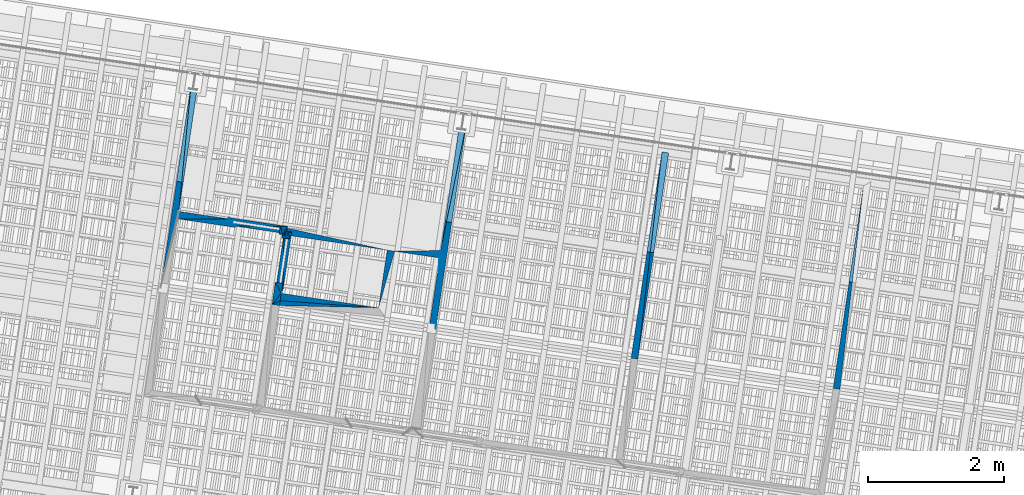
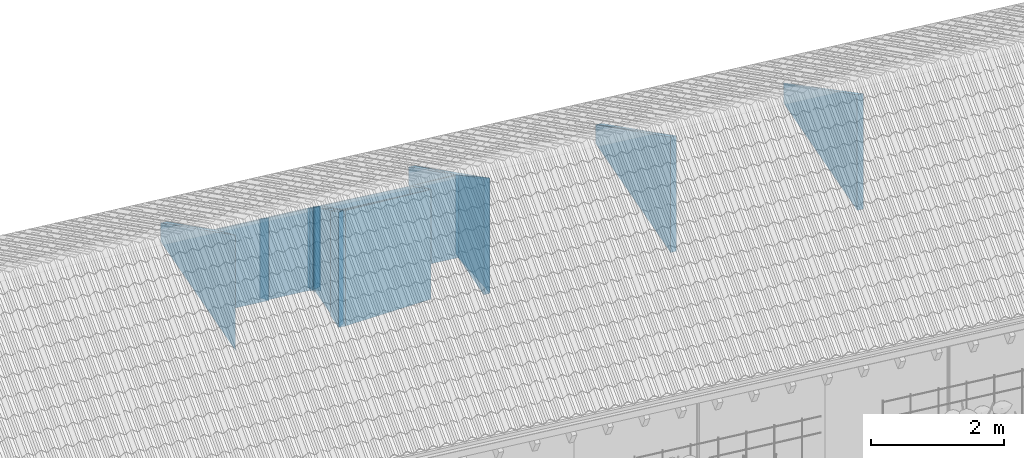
# One storey, part 122 of 128: 32 walls.
"""IFC4 building model written with IfcOpenShell, lengths in metres."""

from ifc_helpers import new_model, si_unit, direction, frame, origin_with_axes, place, context, subcontext, project, spatial, polygons, material, element, save


model = new_model("IFC4")

# Units and contexts
model_context = context("Model", 3, precision=1e-05, world=origin_with_axes(), true_north=direction((0.0, 1.0)))
body_context = subcontext(model_context, "Body", "Model", "MODEL_VIEW")
ifc_project = project(units=[si_unit("VOLUMEUNIT", "CUBIC_METRE"), si_unit("LENGTHUNIT", "METRE"), si_unit("AREAUNIT", "SQUARE_METRE")], contexts=[model_context])

# Site, building, storey
site_placement = place(None, origin_with_axes())
site = spatial("IfcSite", under=ifc_project, at=site_placement, Name="Lares · Rua das Mercês · artigo 4771")
building_placement = place(site_placement, frame((15.0, 9.7, 13.9), z_axis=(0.0, 0.0, 1.0), x_axis=(0.989015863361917, -0.147809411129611, 0.0)))
building = spatial("IfcBuilding", under=site, at=building_placement, Name="Casa Sobreposta")
storey_placement = place(building_placement, origin_with_axes())
storey = spatial("IfcBuildingStorey", under=building, at=storey_placement, Name="00 · Habitação e estacionamento", Elevation=13.9)

# Walls
ifc_material = material(Name="OSB", Category="wood")
wall_1_placement = place(storey_placement, origin_with_axes())
element("IfcWall", 1, at=wall_1_placement, inside=storey, material=ifc_material, Name="Divisória · prolongamento até ao forro", context=body_context, shape_type="Tessellation", body=[
    polygons([(7.96000000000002, 6.27299999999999, 3.05), (7.96000000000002, 3.2, 3.05), (8.05999999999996, 4.35299999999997, 3.05), (7.96000000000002, 6.27299999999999, 3.39332348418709), (7.96000000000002, 3.2, 5.1675208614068), (8.05999999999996, 4.35299999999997, 4.50183600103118)], [[[3, 2, 1]], [[4, 5, 6]], [[1, 2, 5, 4]], [[2, 3, 6, 5]], [[3, 1, 4, 6]]]),
])
wall_2_placement = place(storey_placement, origin_with_axes())
element("IfcWall", 2, at=wall_2_placement, inside=storey, material=ifc_material, Name="Divisória · prolongamento até ao forro", context=body_context, shape_type="Tessellation", body=[
    polygons([(7.96000000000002, 6.27299999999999, 3.05), (8.05999999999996, 4.35299999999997, 3.05), (8.05999999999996, 6.27299999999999, 3.05), (7.96000000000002, 6.27299999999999, 3.39332348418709), (8.05999999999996, 4.35299999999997, 4.50183600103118), (8.05999999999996, 6.27299999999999, 3.39332348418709)], [[[3, 2, 1]], [[4, 5, 6]], [[1, 2, 5, 4]], [[2, 3, 6, 5]], [[3, 1, 4, 6]]]),
])
wall_3_placement = place(storey_placement, origin_with_axes())
element("IfcWall", 3, at=wall_3_placement, inside=storey, material=ifc_material, Name="Divisória · prolongamento até ao forro", context=body_context, shape_type="Tessellation", body=[
    polygons([(9.74955631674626, 4.29756574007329, 3.05), (9.67461809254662, 4.29755537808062, 3.05), (9.63956117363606, 4.26243297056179, 3.05), (9.74955631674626, 4.29756574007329, 4.53384098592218), (9.67461809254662, 4.29755537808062, 4.53384696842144), (9.63956117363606, 4.26243297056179, 4.55412489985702)], [[[3, 2, 1]], [[4, 5, 6]], [[1, 2, 5, 4]], [[2, 3, 6, 5]], [[3, 1, 4, 6]]]),
])
wall_4_placement = place(storey_placement, origin_with_axes())
element("IfcWall", 4, at=wall_4_placement, inside=storey, material=ifc_material, Name="Divisória · prolongamento até ao forro", context=body_context, shape_type="Tessellation", body=[
    polygons([(9.74955631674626, 4.29756574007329, 3.05), (9.63956117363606, 4.26243297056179, 3.05), (9.74967661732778, 3.42754853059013, 3.05), (9.74955631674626, 4.29756574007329, 4.53384098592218), (9.63956117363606, 4.26243297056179, 4.55412489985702), (9.74967661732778, 3.42754853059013, 5.03614565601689)], [[[3, 2, 1]], [[4, 5, 6]], [[1, 2, 5, 4]], [[2, 3, 6, 5]], [[3, 1, 4, 6]]]),
])
wall_5_placement = place(storey_placement, origin_with_axes())
element("IfcWall", 5, at=wall_5_placement, inside=storey, material=ifc_material, Name="Divisória · prolongamento até ao forro", context=body_context, shape_type="Tessellation", body=[
    polygons([(9.74967661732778, 3.42754853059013, 3.05), (9.63956117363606, 4.26243297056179, 3.05), (9.63967661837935, 3.4275333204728, 3.05), (9.74967661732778, 3.42754853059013, 5.03614565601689), (9.63956117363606, 4.26243297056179, 4.55412489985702), (9.63967661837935, 3.4275333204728, 5.03615443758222)], [[[3, 2, 1]], [[4, 5, 6]], [[1, 2, 5, 4]], [[2, 3, 6, 5]], [[3, 1, 4, 6]]]),
])
wall_6_placement = place(storey_placement, origin_with_axes())
element("IfcWall", 6, at=wall_6_placement, inside=storey, material=ifc_material, Name="Divisória · prolongamento até ao forro", context=body_context, shape_type="Tessellation", body=[
    polygons([(8.05999999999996, 4.35299999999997, 3.05), (8.05999999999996, 4.24299999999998, 3.05), (8.80454037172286, 4.35299999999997, 3.05), (8.05999999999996, 4.35299999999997, 4.50183600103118), (8.05999999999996, 4.24299999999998, 4.56534453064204), (8.80454037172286, 4.35299999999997, 4.50183600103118)], [[[3, 2, 1]], [[4, 5, 6]], [[1, 2, 5, 4]], [[2, 3, 6, 5]], [[3, 1, 4, 6]]]),
])
wall_7_placement = place(storey_placement, origin_with_axes())
element("IfcWall", 7, at=wall_7_placement, inside=storey, material=ifc_material, Name="Divisória · prolongamento até ao forro", context=body_context, shape_type="Tessellation", body=[
    polygons([(8.80454322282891, 4.37255471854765, 3.05), (8.80454037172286, 4.35299999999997, 3.05), (8.90999999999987, 4.26253934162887, 3.05), (8.80454322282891, 4.37255471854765, 4.49054607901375), (8.80454037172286, 4.35299999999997, 4.50183600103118), (8.90999999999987, 4.26253934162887, 4.55406348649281)], [[[3, 2, 1]], [[4, 5, 6]], [[1, 2, 5, 4]], [[2, 3, 6, 5]], [[3, 1, 4, 6]]]),
])
wall_8_placement = place(storey_placement, origin_with_axes())
element("IfcWall", 8, at=wall_8_placement, inside=storey, material=ifc_material, Name="Divisória · prolongamento até ao forro", context=body_context, shape_type="Tessellation", body=[
    polygons([(8.80454322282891, 4.37255471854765, 3.05), (8.90999999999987, 4.26253934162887, 3.05), (9.67462900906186, 4.37242785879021, 3.05), (8.80454322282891, 4.37255471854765, 4.49054607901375), (8.90999999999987, 4.26253934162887, 4.55406348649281), (9.67462900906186, 4.37242785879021, 4.49061932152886)], [[[3, 2, 1]], [[4, 5, 6]], [[1, 2, 5, 4]], [[2, 3, 6, 5]], [[3, 1, 4, 6]]]),
])
wall_9_placement = place(storey_placement, origin_with_axes())
element("IfcWall", 9, at=wall_9_placement, inside=storey, material=ifc_material, Name="Divisória · prolongamento até ao forro", context=body_context, shape_type="Tessellation", body=[
    polygons([(9.67462900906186, 4.37242785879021, 3.05), (8.90999999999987, 4.26253934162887, 3.05), (9.63956117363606, 4.26243297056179, 3.05), (9.67462900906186, 4.37242785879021, 4.49061932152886), (8.90999999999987, 4.26253934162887, 4.55406348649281), (9.63956117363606, 4.26243297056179, 4.55412489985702)], [[[3, 2, 1]], [[4, 5, 6]], [[1, 2, 5, 4]], [[2, 3, 6, 5]], [[3, 1, 4, 6]]]),
])
wall_10_placement = place(storey_placement, origin_with_axes())
element("IfcWall", 10, at=wall_10_placement, inside=storey, material=ifc_material, Name="Divisória · prolongamento até ao forro", context=body_context, shape_type="Tessellation", body=[
    polygons([(9.67462900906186, 4.37242785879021, 3.05), (9.63956117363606, 4.26243297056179, 3.05), (9.67461809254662, 4.29755537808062, 3.05), (9.67462900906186, 4.37242785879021, 4.49061932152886), (9.63956117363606, 4.26243297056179, 4.55412489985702), (9.67461809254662, 4.29755537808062, 4.53384696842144)], [[[3, 2, 1]], [[4, 5, 6]], [[1, 2, 5, 4]], [[2, 3, 6, 5]], [[3, 1, 4, 6]]]),
])
wall_11_placement = place(storey_placement, origin_with_axes())
element("IfcWall", 11, at=wall_11_placement, inside=storey, material=ifc_material, Name="Divisória · prolongamento até ao forro", context=body_context, shape_type="Tessellation", body=[
    polygons([(8.90999999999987, 4.24299999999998, 3.05), (8.90999999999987, 4.26253934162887, 3.05), (8.80454037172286, 4.35299999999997, 3.05), (8.90999999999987, 4.24299999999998, 4.56534453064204), (8.90999999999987, 4.26253934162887, 4.55406348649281), (8.80454037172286, 4.35299999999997, 4.50183600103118)], [[[3, 2, 1]], [[4, 5, 6]], [[1, 2, 5, 4]], [[2, 3, 6, 5]], [[3, 1, 4, 6]]]),
])
wall_12_placement = place(storey_placement, origin_with_axes())
element("IfcWall", 12, at=wall_12_placement, inside=storey, material=ifc_material, Name="Divisória · prolongamento até ao forro", context=body_context, shape_type="Tessellation", body=[
    polygons([(8.90999999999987, 4.24299999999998, 3.05), (8.80454037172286, 4.35299999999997, 3.05), (8.05999999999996, 4.24299999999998, 3.05), (8.90999999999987, 4.24299999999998, 4.56534453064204), (8.80454037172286, 4.35299999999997, 4.50183600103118), (8.05999999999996, 4.24299999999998, 4.56534453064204)], [[[3, 2, 1]], [[4, 5, 6]], [[1, 2, 5, 4]], [[2, 3, 6, 5]], [[3, 1, 4, 6]]]),
])
wall_13_placement = place(storey_placement, origin_with_axes())
element("IfcWall", 13, at=wall_13_placement, inside=storey, material=ifc_material, Name="Divisória · prolongamento até ao forro", context=body_context, shape_type="Tessellation", body=[
    polygons([(9.56999999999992, 4.35299999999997, 3.05), (9.56999999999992, 4.24299999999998, 3.05), (9.61999999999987, 4.24299999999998, 3.05), (9.56999999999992, 4.35299999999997, 4.50183600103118), (9.56999999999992, 4.24299999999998, 4.56534453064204), (9.61999999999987, 4.24299999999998, 4.56534453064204)], [[[3, 2, 1]], [[4, 5, 6]], [[1, 2, 5, 4]], [[2, 3, 6, 5]], [[3, 1, 4, 6]]]),
])
wall_14_placement = place(storey_placement, origin_with_axes())
element("IfcWall", 14, at=wall_14_placement, inside=storey, material=ifc_material, Name="Divisória · prolongamento até ao forro", context=body_context, shape_type="Tessellation", body=[
    polygons([(9.56999999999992, 4.35299999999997, 3.05), (9.61999999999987, 4.24299999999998, 3.05), (9.72999999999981, 4.24299999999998, 3.05), (9.56999999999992, 4.35299999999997, 4.50183600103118), (9.61999999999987, 4.24299999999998, 4.56534453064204), (9.72999999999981, 4.24299999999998, 4.56534453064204)], [[[3, 2, 1]], [[4, 5, 6]], [[1, 2, 5, 4]], [[2, 3, 6, 5]], [[3, 1, 4, 6]]]),
])
wall_15_placement = place(storey_placement, origin_with_axes())
element("IfcWall", 15, at=wall_15_placement, inside=storey, material=ifc_material, Name="Divisória · prolongamento até ao forro", context=body_context, shape_type="Tessellation", body=[
    polygons([(9.56999999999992, 4.35299999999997, 3.05), (9.72999999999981, 4.24299999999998, 3.05), (11.1799999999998, 4.24299999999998, 3.05), (9.56999999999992, 4.35299999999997, 4.50183600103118), (9.72999999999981, 4.24299999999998, 4.56534453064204), (11.1799999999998, 4.24299999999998, 4.56534453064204)], [[[3, 2, 1]], [[4, 5, 6]], [[1, 2, 5, 4]], [[2, 3, 6, 5]], [[3, 1, 4, 6]]]),
])
wall_16_placement = place(storey_placement, origin_with_axes())
element("IfcWall", 16, at=wall_16_placement, inside=storey, material=ifc_material, Name="Divisória · prolongamento até ao forro", context=body_context, shape_type="Tessellation", body=[
    polygons([(11.96, 6.27299999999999, 3.05), (11.96, 4.35299999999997, 3.05), (12.06, 6.27299999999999, 3.05), (11.96, 6.27299999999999, 3.39332348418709), (11.96, 4.35299999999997, 4.50183600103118), (12.06, 6.27299999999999, 3.39332348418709)], [[[3, 2, 1]], [[4, 5, 6]], [[1, 2, 5, 4]], [[2, 3, 6, 5]], [[3, 1, 4, 6]]]),
])
wall_17_placement = place(storey_placement, origin_with_axes())
element("IfcWall", 17, at=wall_17_placement, inside=storey, material=ifc_material, Name="Divisória · prolongamento até ao forro", context=body_context, shape_type="Tessellation", body=[
    polygons([(12.06, 6.27299999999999, 3.05), (11.96, 4.35299999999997, 3.05), (12.06, 3.2, 3.05), (12.06, 6.27299999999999, 3.39332348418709), (11.96, 4.35299999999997, 4.50183600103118), (12.06, 3.2, 5.1675208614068)], [[[3, 2, 1]], [[4, 5, 6]], [[1, 2, 5, 4]], [[2, 3, 6, 5]], [[3, 1, 4, 6]]]),
])
wall_18_placement = place(storey_placement, origin_with_axes())
element("IfcWall", 18, at=wall_18_placement, inside=storey, material=ifc_material, Name="Divisória · prolongamento até ao forro", context=body_context, shape_type="Tessellation", body=[
    polygons([(12.06, 3.2, 3.05), (11.96, 4.35299999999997, 3.05), (11.96, 4.24299999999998, 3.05), (12.06, 3.2, 5.1675208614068), (11.96, 4.35299999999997, 4.50183600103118), (11.96, 4.24299999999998, 4.56534453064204)], [[[3, 2, 1]], [[4, 5, 6]], [[1, 2, 5, 4]], [[2, 3, 6, 5]], [[3, 1, 4, 6]]]),
])
wall_19_placement = place(storey_placement, origin_with_axes())
element("IfcWall", 19, at=wall_19_placement, inside=storey, material=ifc_material, Name="Divisória · prolongamento até ao forro", context=body_context, shape_type="Tessellation", body=[
    polygons([(12.06, 3.2, 3.05), (11.96, 4.24299999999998, 3.05), (11.96, 3.2, 3.05), (12.06, 3.2, 5.1675208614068), (11.96, 4.24299999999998, 4.56534453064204), (11.96, 3.2, 5.1675208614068)], [[[3, 2, 1]], [[4, 5, 6]], [[1, 2, 5, 4]], [[2, 3, 6, 5]], [[3, 1, 4, 6]]]),
])
wall_20_placement = place(storey_placement, origin_with_axes())
element("IfcWall", 20, at=wall_20_placement, inside=storey, material=ifc_material, Name="Divisória · prolongamento até ao forro", context=body_context, shape_type="Tessellation", body=[
    polygons([(9.72999999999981, 3.2, 3.05), (11.1799999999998, 3.383, 3.05), (9.72999999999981, 3.27300000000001, 3.05), (9.72999999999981, 3.2, 5.1675208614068), (11.1799999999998, 3.383, 5.0618657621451), (9.72999999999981, 3.27300000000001, 5.12537429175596)], [[[3, 2, 1]], [[4, 5, 6]], [[1, 2, 5, 4]], [[2, 3, 6, 5]], [[3, 1, 4, 6]]]),
])
wall_21_placement = place(storey_placement, origin_with_axes())
element("IfcWall", 21, at=wall_21_placement, inside=storey, material=ifc_material, Name="Divisória · prolongamento até ao forro", context=body_context, shape_type="Tessellation", body=[
    polygons([(9.72999999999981, 3.2, 3.05), (9.72999999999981, 3.27300000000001, 3.05), (9.61999999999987, 3.2, 3.05), (9.72999999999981, 3.2, 5.1675208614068), (9.72999999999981, 3.27300000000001, 5.12537429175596), (9.61999999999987, 3.2, 5.1675208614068)], [[[3, 2, 1]], [[4, 5, 6]], [[1, 2, 5, 4]], [[2, 3, 6, 5]], [[3, 1, 4, 6]]]),
])
wall_22_placement = place(storey_placement, origin_with_axes())
element("IfcWall", 22, at=wall_22_placement, inside=storey, material=ifc_material, Name="Divisória · prolongamento até ao forro", context=body_context, shape_type="Tessellation", body=[
    polygons([(9.61999999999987, 3.2, 3.05), (9.72999999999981, 3.27300000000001, 3.05), (9.72999999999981, 3.383, 3.05), (9.61999999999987, 3.2, 5.1675208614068), (9.72999999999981, 3.27300000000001, 5.12537429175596), (9.72999999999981, 3.383, 5.0618657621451)], [[[3, 2, 1]], [[4, 5, 6]], [[1, 2, 5, 4]], [[2, 3, 6, 5]], [[3, 1, 4, 6]]]),
])
wall_23_placement = place(storey_placement, origin_with_axes())
element("IfcWall", 23, at=wall_23_placement, inside=storey, material=ifc_material, Name="Divisória · prolongamento até ao forro", context=body_context, shape_type="Tessellation", body=[
    polygons([(9.61999999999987, 3.2, 3.05), (9.72999999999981, 3.383, 3.05), (9.61999999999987, 3.53299999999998, 3.05), (9.61999999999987, 3.2, 5.1675208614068), (9.72999999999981, 3.383, 5.0618657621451), (9.61999999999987, 3.53299999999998, 4.97526322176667)], [[[3, 2, 1]], [[4, 5, 6]], [[1, 2, 5, 4]], [[2, 3, 6, 5]], [[3, 1, 4, 6]]]),
])
wall_24_placement = place(storey_placement, origin_with_axes())
element("IfcWall", 24, at=wall_24_placement, inside=storey, material=ifc_material, Name="Divisória · prolongamento até ao forro", context=body_context, shape_type="Tessellation", body=[
    polygons([(9.61999999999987, 4.24299999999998, 3.05), (9.61999999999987, 4.19299999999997, 3.05), (9.72999999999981, 4.19299999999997, 3.05), (9.61999999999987, 4.24299999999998, 4.56534453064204), (9.61999999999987, 4.19299999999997, 4.59421204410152), (9.72999999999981, 4.19299999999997, 4.59421204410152)], [[[3, 2, 1]], [[4, 5, 6]], [[1, 2, 5, 4]], [[2, 3, 6, 5]], [[3, 1, 4, 6]]]),
])
wall_25_placement = place(storey_placement, origin_with_axes())
element("IfcWall", 25, at=wall_25_placement, inside=storey, material=ifc_material, Name="Divisória · prolongamento até ao forro", context=body_context, shape_type="Tessellation", body=[
    polygons([(9.61999999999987, 4.24299999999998, 3.05), (9.72999999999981, 4.19299999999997, 3.05), (9.72999999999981, 4.24299999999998, 3.05), (9.61999999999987, 4.24299999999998, 4.56534453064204), (9.72999999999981, 4.19299999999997, 4.59421204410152), (9.72999999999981, 4.24299999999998, 4.56534453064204)], [[[3, 2, 1]], [[4, 5, 6]], [[1, 2, 5, 4]], [[2, 3, 6, 5]], [[3, 1, 4, 6]]]),
])
wall_26_placement = place(storey_placement, origin_with_axes())
element("IfcWall", 26, at=wall_26_placement, inside=storey, material=ifc_material, Name="Divisória · prolongamento até ao forro", context=body_context, shape_type="Tessellation", body=[
    polygons([(11.1799999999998, 4.24299999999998, 3.05), (11.1799999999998, 3.383, 3.05), (11.29, 4.24299999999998, 3.05), (11.1799999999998, 4.24299999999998, 4.56534453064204), (11.1799999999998, 3.383, 5.0618657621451), (11.29, 4.24299999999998, 4.56534453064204)], [[[3, 2, 1]], [[4, 5, 6]], [[1, 2, 5, 4]], [[2, 3, 6, 5]], [[3, 1, 4, 6]]]),
])
wall_27_placement = place(storey_placement, origin_with_axes())
element("IfcWall", 27, at=wall_27_placement, inside=storey, material=ifc_material, Name="Divisória · prolongamento até ao forro", context=body_context, shape_type="Tessellation", body=[
    polygons([(11.29, 4.24299999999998, 3.05), (11.96, 4.24299999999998, 3.05), (11.96, 4.35299999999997, 3.05), (11.29, 4.24299999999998, 4.56534453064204), (11.96, 4.24299999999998, 4.56534453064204), (11.96, 4.35299999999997, 4.50183600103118)], [[[3, 2, 1]], [[4, 5, 6]], [[1, 2, 5, 4]], [[2, 3, 6, 5]], [[3, 1, 4, 6]]]),
])
wall_28_placement = place(storey_placement, origin_with_axes())
element("IfcWall", 28, at=wall_28_placement, inside=storey, material=ifc_material, Name="Divisória · prolongamento até ao forro", context=body_context, shape_type="Tessellation", body=[
    polygons([(11.1799999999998, 3.383, 3.05), (9.72999999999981, 3.383, 3.05), (9.72999999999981, 3.27300000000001, 3.05), (11.1799999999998, 3.383, 5.0618657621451), (9.72999999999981, 3.383, 5.0618657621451), (9.72999999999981, 3.27300000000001, 5.12537429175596)], [[[3, 2, 1]], [[4, 5, 6]], [[1, 2, 5, 4]], [[2, 3, 6, 5]], [[3, 1, 4, 6]]]),
])
wall_29_placement = place(storey_placement, origin_with_axes())
element("IfcWall", 29, at=wall_29_placement, inside=storey, material=ifc_material, Name="Divisória · prolongamento até ao forro", context=body_context, shape_type="Tessellation", body=[
    polygons([(9.72999999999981, 3.383, 3.05), (9.72999999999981, 3.53299999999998, 3.05), (9.61999999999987, 3.53299999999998, 3.05), (9.72999999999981, 3.383, 5.0618657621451), (9.72999999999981, 3.53299999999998, 4.97526322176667), (9.61999999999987, 3.53299999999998, 4.97526322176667)], [[[3, 2, 1]], [[4, 5, 6]], [[1, 2, 5, 4]], [[2, 3, 6, 5]], [[3, 1, 4, 6]]]),
])
wall_30_placement = place(storey_placement, origin_with_axes())
element("IfcWall", 30, at=wall_30_placement, inside=storey, material=ifc_material, Name="Divisória · prolongamento até ao forro", context=body_context, shape_type="Tessellation", body=[
    polygons([(14.97, 6.27299999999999, 3.05), (14.97, 3.2, 3.05), (15.07, 3.2, 3.05), (14.97, 6.27299999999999, 3.39332348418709), (14.97, 3.2, 5.1675208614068), (15.07, 3.2, 5.1675208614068)], [[[3, 2, 1]], [[4, 5, 6]], [[1, 2, 5, 4]], [[2, 3, 6, 5]], [[3, 1, 4, 6]]]),
])
wall_31_placement = place(storey_placement, origin_with_axes())
element("IfcWall", 31, at=wall_31_placement, inside=storey, material=ifc_material, Name="Divisória · prolongamento até ao forro", context=body_context, shape_type="Tessellation", body=[
    polygons([(14.97, 6.27299999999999, 3.05), (15.07, 3.2, 3.05), (15.07, 6.27299999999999, 3.05), (14.97, 6.27299999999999, 3.39332348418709), (15.07, 3.2, 5.1675208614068), (15.07, 6.27299999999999, 3.39332348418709)], [[[3, 2, 1]], [[4, 5, 6]], [[1, 2, 5, 4]], [[2, 3, 6, 5]], [[3, 1, 4, 6]]]),
])
wall_32_placement = place(storey_placement, origin_with_axes())
element("IfcWall", 32, at=wall_32_placement, inside=storey, material=ifc_material, Name="Divisória · prolongamento até ao forro", context=body_context, shape_type="Tessellation", body=[
    polygons([(17.98, 6.21236749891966, 3.05), (17.98, 3.2, 3.05), (18.0799999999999, 3.2, 3.05), (17.98, 6.21236749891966, 3.42832967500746), (17.98, 3.2, 5.1675208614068), (18.0799999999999, 3.2, 5.1675208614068)], [[[3, 2, 1]], [[4, 5, 6]], [[1, 2, 5, 4]], [[2, 3, 6, 5]], [[3, 1, 4, 6]]]),
])

save(model, "model.ifc")
